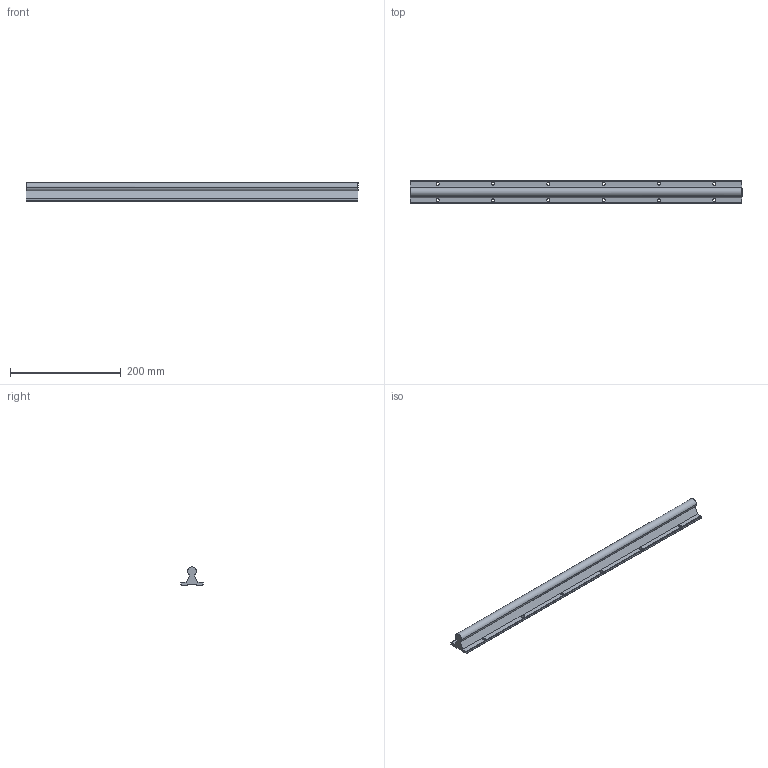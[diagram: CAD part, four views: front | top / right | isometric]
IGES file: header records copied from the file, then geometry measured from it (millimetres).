
Global section: file name: No Iges File Name specified; native system: AutoDesk Inventor R10; preprocessor: AutoDesk Inventor Iges Exporter R10; author: No Author specified; organization: No Organization specified; date: 20101221.090626; units: millimetre
Bounding box: 600 x 40 x 33 mm (x, y, z)
Surface area: 86182.5 mm2 (no closed solid volume)
Topology: 0 solids, 0 shells, 146 faces, 988 edges, 976 vertices
Faces by surface type: bspline 146
